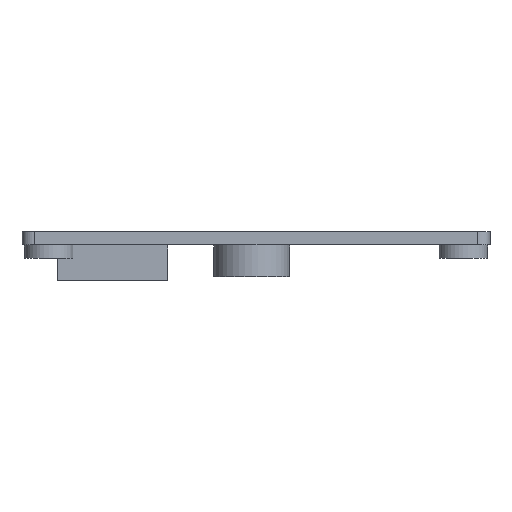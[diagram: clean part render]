
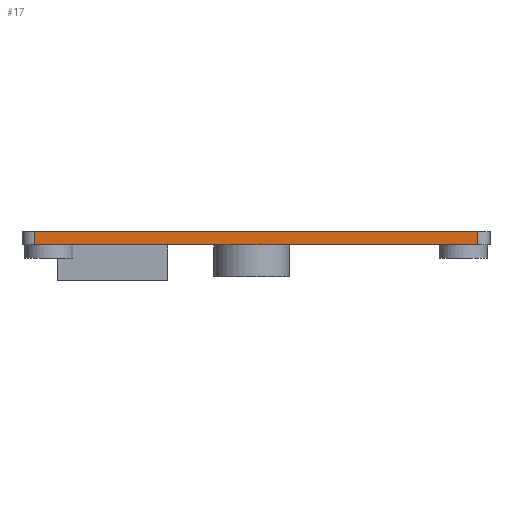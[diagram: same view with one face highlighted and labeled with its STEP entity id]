
A CAD part, left-side view. The second image highlights one B-rep face of the part: STEP entity #17.
In plain terms, the highlighted planar face has unit normal (-1, 0, 0).
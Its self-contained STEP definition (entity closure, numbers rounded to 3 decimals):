
#17 = ADVANCED_FACE('',(#18),#32,.F.);
#18 = FACE_BOUND('',#19,.F.);
#19 = EDGE_LOOP('',(#20,#55,#83,#111));
#20 = ORIENTED_EDGE('',*,*,#21,.F.);
#21 = EDGE_CURVE('',#22,#24,#26,.T.);
#22 = VERTEX_POINT('',#23);
#23 = CARTESIAN_POINT('',(2.95,5.8,36.));
#24 = VERTEX_POINT('',#25);
#25 = CARTESIAN_POINT('',(2.95,106.2,36.));
#26 = SURFACE_CURVE('',#27,(#31,#43),.PCURVE_S1.);
#27 = LINE('',#28,#29);
#28 = CARTESIAN_POINT('',(2.95,2.95,36.));
#29 = VECTOR('',#30,1.);
#30 = DIRECTION('',(0.,1.,0.));
#31 = PCURVE('',#32,#37);
#32 = PLANE('',#33);
#33 = AXIS2_PLACEMENT_3D('',#34,#35,#36);
#34 = CARTESIAN_POINT('',(2.95,2.95,33.));
#35 = DIRECTION('',(1.,0.,0.));
#36 = DIRECTION('',(0.,0.,1.));
#37 = DEFINITIONAL_REPRESENTATION('',(#38),#42);
#38 = LINE('',#39,#40);
#39 = CARTESIAN_POINT('',(3.,0.));
#40 = VECTOR('',#41,1.);
#41 = DIRECTION('',(0.,-1.));
#42 = ( GEOMETRIC_REPRESENTATION_CONTEXT(2) 
PARAMETRIC_REPRESENTATION_CONTEXT() REPRESENTATION_CONTEXT('2D SPACE',''
  ) );
#43 = PCURVE('',#44,#49);
#44 = PLANE('',#45);
#45 = AXIS2_PLACEMENT_3D('',#46,#47,#48);
#46 = CARTESIAN_POINT('',(2.95,2.95,36.));
#47 = DIRECTION('',(0.,0.,1.));
#48 = DIRECTION('',(1.,0.,-0.));
#49 = DEFINITIONAL_REPRESENTATION('',(#50),#54);
#50 = LINE('',#51,#52);
#51 = CARTESIAN_POINT('',(0.,0.));
#52 = VECTOR('',#53,1.);
#53 = DIRECTION('',(0.,1.));
#54 = ( GEOMETRIC_REPRESENTATION_CONTEXT(2) 
PARAMETRIC_REPRESENTATION_CONTEXT() REPRESENTATION_CONTEXT('2D SPACE',''
  ) );
#55 = ORIENTED_EDGE('',*,*,#56,.F.);
#56 = EDGE_CURVE('',#57,#22,#59,.T.);
#57 = VERTEX_POINT('',#58);
#58 = CARTESIAN_POINT('',(2.95,5.8,33.));
#59 = SURFACE_CURVE('',#60,(#64,#71),.PCURVE_S1.);
#60 = LINE('',#61,#62);
#61 = CARTESIAN_POINT('',(2.95,5.8,33.));
#62 = VECTOR('',#63,1.);
#63 = DIRECTION('',(0.,0.,1.));
#64 = PCURVE('',#32,#65);
#65 = DEFINITIONAL_REPRESENTATION('',(#66),#70);
#66 = LINE('',#67,#68);
#67 = CARTESIAN_POINT('',(0.,-2.85));
#68 = VECTOR('',#69,1.);
#69 = DIRECTION('',(1.,0.));
#70 = ( GEOMETRIC_REPRESENTATION_CONTEXT(2) 
PARAMETRIC_REPRESENTATION_CONTEXT() REPRESENTATION_CONTEXT('2D SPACE',''
  ) );
#71 = PCURVE('',#72,#77);
#72 = CYLINDRICAL_SURFACE('',#73,2.85);
#73 = AXIS2_PLACEMENT_3D('',#74,#75,#76);
#74 = CARTESIAN_POINT('',(5.8,5.8,33.));
#75 = DIRECTION('',(0.,0.,1.));
#76 = DIRECTION('',(-1.,-0.,0.));
#77 = DEFINITIONAL_REPRESENTATION('',(#78),#82);
#78 = LINE('',#79,#80);
#79 = CARTESIAN_POINT('',(0.,0.));
#80 = VECTOR('',#81,1.);
#81 = DIRECTION('',(0.,1.));
#82 = ( GEOMETRIC_REPRESENTATION_CONTEXT(2) 
PARAMETRIC_REPRESENTATION_CONTEXT() REPRESENTATION_CONTEXT('2D SPACE',''
  ) );
#83 = ORIENTED_EDGE('',*,*,#84,.T.);
#84 = EDGE_CURVE('',#57,#85,#87,.T.);
#85 = VERTEX_POINT('',#86);
#86 = CARTESIAN_POINT('',(2.95,106.2,33.));
#87 = SURFACE_CURVE('',#88,(#92,#99),.PCURVE_S1.);
#88 = LINE('',#89,#90);
#89 = CARTESIAN_POINT('',(2.95,2.95,33.));
#90 = VECTOR('',#91,1.);
#91 = DIRECTION('',(0.,1.,0.));
#92 = PCURVE('',#32,#93);
#93 = DEFINITIONAL_REPRESENTATION('',(#94),#98);
#94 = LINE('',#95,#96);
#95 = CARTESIAN_POINT('',(0.,0.));
#96 = VECTOR('',#97,1.);
#97 = DIRECTION('',(0.,-1.));
#98 = ( GEOMETRIC_REPRESENTATION_CONTEXT(2) 
PARAMETRIC_REPRESENTATION_CONTEXT() REPRESENTATION_CONTEXT('2D SPACE',''
  ) );
#99 = PCURVE('',#100,#105);
#100 = PLANE('',#101);
#101 = AXIS2_PLACEMENT_3D('',#102,#103,#104);
#102 = CARTESIAN_POINT('',(2.95,2.95,33.));
#103 = DIRECTION('',(0.,0.,1.));
#104 = DIRECTION('',(1.,0.,-0.));
#105 = DEFINITIONAL_REPRESENTATION('',(#106),#110);
#106 = LINE('',#107,#108);
#107 = CARTESIAN_POINT('',(0.,0.));
#108 = VECTOR('',#109,1.);
#109 = DIRECTION('',(0.,1.));
#110 = ( GEOMETRIC_REPRESENTATION_CONTEXT(2) 
PARAMETRIC_REPRESENTATION_CONTEXT() REPRESENTATION_CONTEXT('2D SPACE',''
  ) );
#111 = ORIENTED_EDGE('',*,*,#112,.T.);
#112 = EDGE_CURVE('',#85,#24,#113,.T.);
#113 = SURFACE_CURVE('',#114,(#118,#125),.PCURVE_S1.);
#114 = LINE('',#115,#116);
#115 = CARTESIAN_POINT('',(2.95,106.2,33.));
#116 = VECTOR('',#117,1.);
#117 = DIRECTION('',(0.,0.,1.));
#118 = PCURVE('',#32,#119);
#119 = DEFINITIONAL_REPRESENTATION('',(#120),#124);
#120 = LINE('',#121,#122);
#121 = CARTESIAN_POINT('',(0.,-103.25));
#122 = VECTOR('',#123,1.);
#123 = DIRECTION('',(1.,0.));
#124 = ( GEOMETRIC_REPRESENTATION_CONTEXT(2) 
PARAMETRIC_REPRESENTATION_CONTEXT() REPRESENTATION_CONTEXT('2D SPACE',''
  ) );
#125 = PCURVE('',#126,#131);
#126 = CYLINDRICAL_SURFACE('',#127,2.85);
#127 = AXIS2_PLACEMENT_3D('',#128,#129,#130);
#128 = CARTESIAN_POINT('',(5.8,106.2,33.));
#129 = DIRECTION('',(0.,0.,1.));
#130 = DIRECTION('',(-1.,-0.,0.));
#131 = DEFINITIONAL_REPRESENTATION('',(#132),#136);
#132 = LINE('',#133,#134);
#133 = CARTESIAN_POINT('',(6.283,0.));
#134 = VECTOR('',#135,1.);
#135 = DIRECTION('',(-0.,1.));
#136 = ( GEOMETRIC_REPRESENTATION_CONTEXT(2) 
PARAMETRIC_REPRESENTATION_CONTEXT() REPRESENTATION_CONTEXT('2D SPACE',''
  ) );
